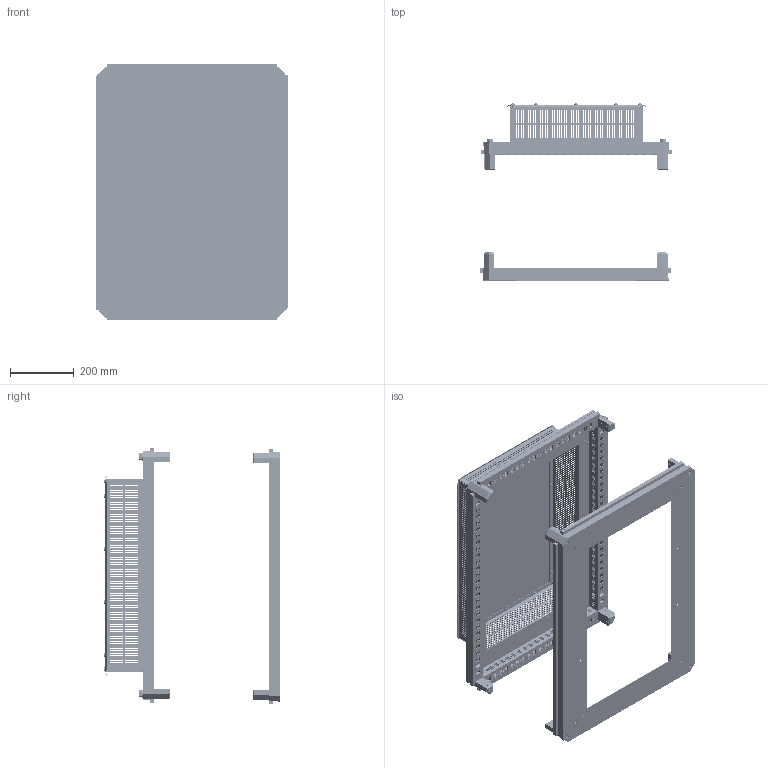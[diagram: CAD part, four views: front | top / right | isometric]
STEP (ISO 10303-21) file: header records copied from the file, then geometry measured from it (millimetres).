
FILE_DESCRIPTION (( 'STEP AP214' ), '1' );
FILE_NAME ('FO-00-KOF-060-080-31 Êðûøà è îñíîâàíèå (ïîä ôëàíåö) 600õ800 ìì IP31.STEP', '2025-07-23T12:02:44', ( '' ), ( '' ), 'SwSTEP 2.0', 'SolidWorks 2023', '' );
FILE_SCHEMA (( 'AUTOMOTIVE_DESIGN' ));
Length unit declared in the file: millimetre
Products named in the file (3): Основание под фланец 600х800; FO-00-KOF-060-080-31 Крыша и основание (под фланец) 600х800 мм IP31; Крыша под фланец 600х800 IP31.SLDASM
Assembly tree (2 placements, depth 2):
  FO-00-KOF-060-080-31 Крыша и основание (под фланец) 600х800 мм IP31
    Крыша под фланец 600х800 IP31.SLDASM
    Основание под фланец 600х800
Bounding box: 601.67 x 554.55 x 803.92 mm (x, y, z)
Volume: 3998420.9 mm3; surface area: 3179422.9 mm2
Topology: 2 solids, 68 shells, 7667 faces, 21707 edges, 14392 vertices
Faces by surface type: plane 5225, cylinder 1950, cone 244, bspline 192, sphere 28, torus 28
Entity records: 257142 total; most frequent: CARTESIAN_POINT 52490, ORIENTED_EDGE 43394, DIRECTION 39640, EDGE_CURVE 21697, VECTOR 16276, LINE 16276, VERTEX_POINT 14392, AXIS2_PLACEMENT_3D 11682
